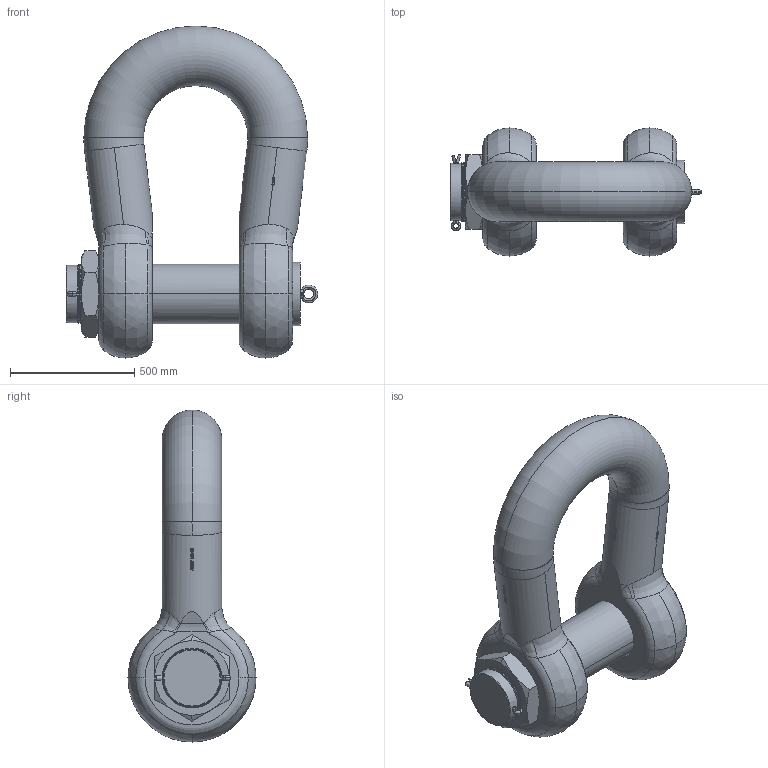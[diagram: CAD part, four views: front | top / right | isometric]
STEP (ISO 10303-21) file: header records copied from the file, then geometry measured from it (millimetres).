
FILE_DESCRIPTION(('STEP AP214'),'1');
FILE_NAME('hdgphm1000.stp','2017-05-17T10:48:59',('TraceParts'),('TraceParts S.A.'),'Spatial InterOp 3D',' ',' ');
FILE_SCHEMA(('automotive_design'));
Length unit declared in the file: millimetre
Products named in the file (5): HDGPHM1000|HDGPHM1000_1#HDGPHM1000_1;MANIFOLD_SOLID_BREP #21288; HDGPHM1000|HDGPHM1000_1#HDGPHM1000_2;MANIFOLD_SOLID_BREP #41211; hdgphm1000_3; hdgphm1000_4; hdgphm1000_5
Bounding box: 1011 x 515 x 1335.49 mm (x, y, z)
Volume: 185927477.9 mm3; surface area: 3860738.2 mm2
Topology: 5 solids, 5 shells, 1292 faces, 5386 edges, 4155 vertices
Faces by surface type: bspline 486, plane 398, cylinder 346, torus 36, cone 26
Entity records: 108946 total; most frequent: CARTESIAN_POINT 62680, ORIENTED_EDGE 10768, EDGE_CURVE 5384, VERTEX_POINT 4155, B_SPLINE_CURVE_WITH_KNOTS 4113, DIRECTION 2945, EDGE_LOOP 1355, STYLED_ITEM 1297
